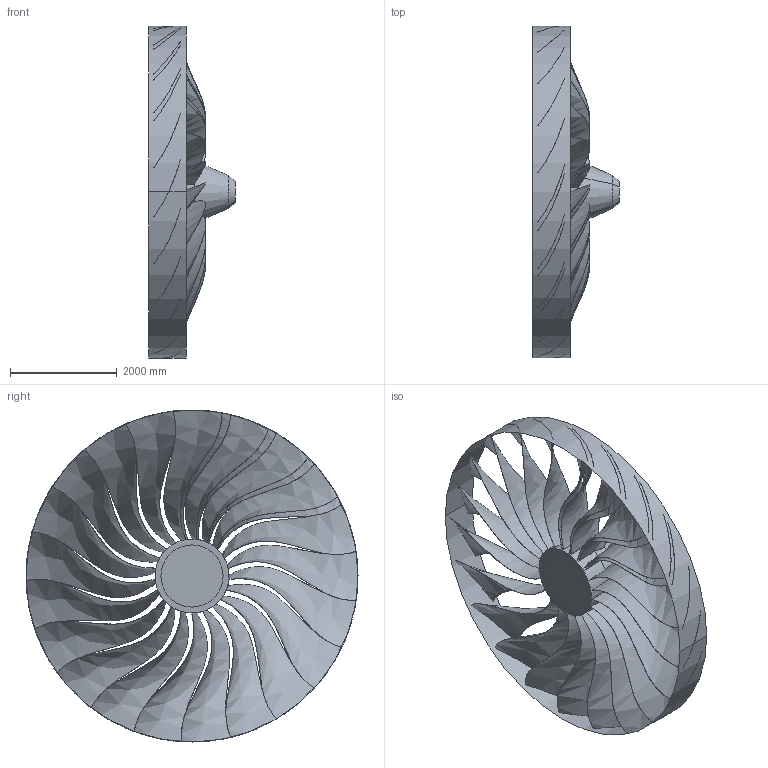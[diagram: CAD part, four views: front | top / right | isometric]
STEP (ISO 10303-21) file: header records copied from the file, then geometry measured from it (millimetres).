
FILE_DESCRIPTION(('CATIA V5 STEP Exchange'),'2;1');
FILE_NAME('C:\Users\MHK\Desktop\jet engine fan 3.stp','2014-10-06T19:37:02+00:00',('none'),('none'),'CATIA Version 5 Release 19 SP 2 (IN-10)','CATIA V5 STEP AP203','none');
FILE_SCHEMA(('CONFIG_CONTROL_DESIGN'));
Length unit declared in the file: millimetre
Products named in the file (1): Part1
Bounding box: 1627.75 x 6213.98 x 6213.98 mm (x, y, z)
Volume: 687429411 mm3; surface area: 158654291.5 mm2
Topology: 1 solids, 5 shells, 250 faces, 732 edges, 486 vertices
Faces by surface type: bspline 226, cone 13, cylinder 8, plane 3
Entity records: 72387 total; most frequent: CARTESIAN_POINT 67706, ORIENTED_EDGE 1452, EDGE_CURVE 732, B_SPLINE_CURVE_WITH_KNOTS 635, VERTEX_POINT 486, EDGE_LOOP 251, ADVANCED_FACE 250, FACE_OUTER_BOUND 250
